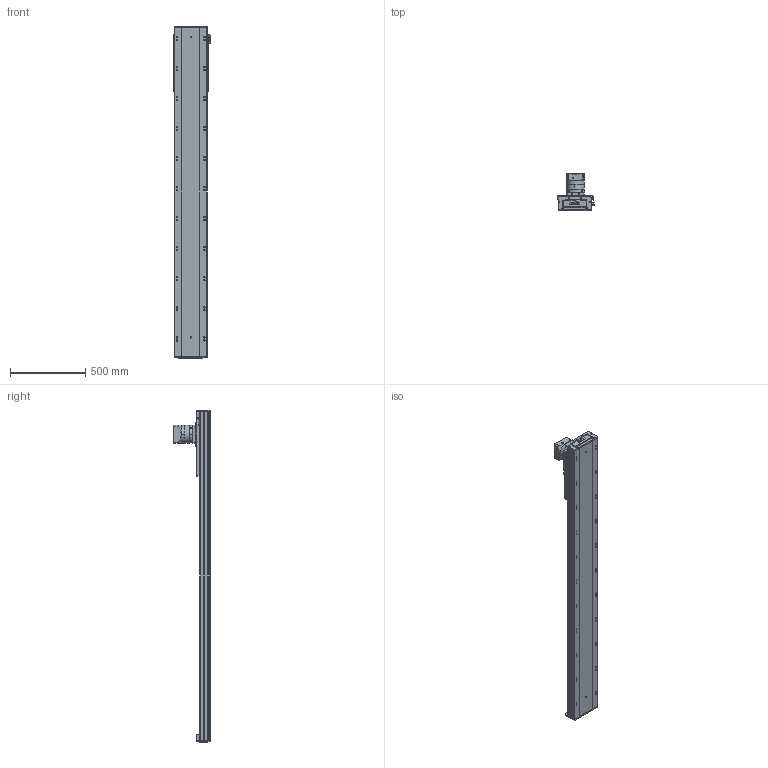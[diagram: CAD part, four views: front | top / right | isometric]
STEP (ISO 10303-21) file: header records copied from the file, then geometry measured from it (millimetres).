
FILE_DESCRIPTION (( 'STEP AP203' ), '1' );
FILE_NAME ('RY220-C-300-UK.SLDASM_1700.step', '2022-08-01T05:59:33', ( '' ), ( '' ), 'SwSTEP 2.0', 'SolidWorks 2016', '' );
FILE_SCHEMA (( 'CONFIG_CONTROL_DESIGN' ));
Length unit declared in the file: millimetre
Products named in the file (10): PF115L1-S2-22-58-110-145-M8; RY220-齿条模组电机安装板; RY220喘沭俋离覜茼え; RY220-C-300-UK.SLDASM_1700; RY220菁釱MK-300_1700; RY220喘沭賑輸; 滅袉蝶輸ㄗG412隅秶ㄘ; RY220喘沭綴裔啣; 覜茼ん674; RY140直线电机感应器674光电安装座
Assembly tree (12 placements, depth 2):
  RY220-C-300-UK.SLDASM_1700
    RY220菁釱MK-300_1700
    RY220喘沭賑輸
    RY220-齿条模组电机安装板
    PF115L1-S2-22-58-110-145-M8
    RY220喘沭綴裔啣  x2
    滅袉蝶輸ㄗG412隅秶ㄘ  x2
    RY140直线电机感应器674光电安装座
    覜茼ん674  x2
    RY220喘沭俋离覜茼え
Bounding box: 247 x 244.5 x 2209 mm (x, y, z)
Volume: 16164548.2 mm3; surface area: 3253470.4 mm2
Topology: 18 solids, 26 shells, 2124 faces, 5703 edges, 3600 vertices
Faces by surface type: cylinder 995, plane 751, cone 216, bspline 162
Entity records: 67261 total; most frequent: CARTESIAN_POINT 18396, DIRECTION 10027, ORIENTED_EDGE 9874, EDGE_CURVE 4937, AXIS2_PLACEMENT_3D 3819, VERTEX_POINT 3226, EDGE_LOOP 2439, VECTOR 2389
